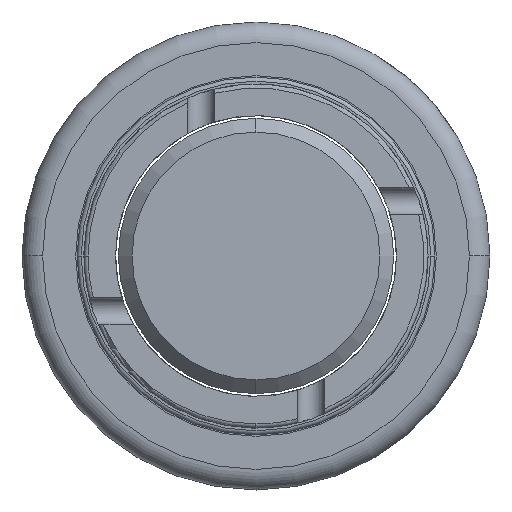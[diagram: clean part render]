
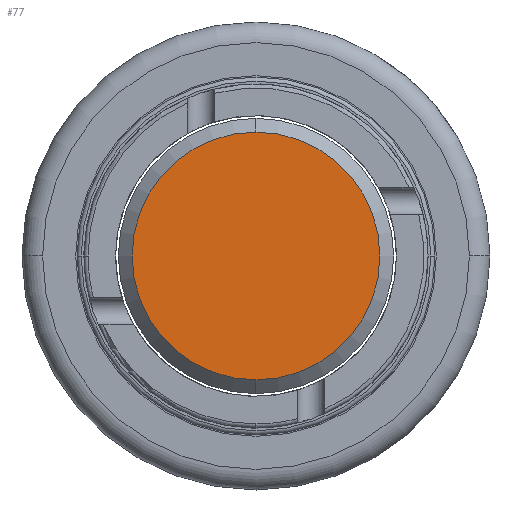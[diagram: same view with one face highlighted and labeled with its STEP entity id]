
A CAD part, left-side view. The second image highlights one B-rep face of the part: STEP entity #77.
In plain terms, the highlighted planar face has unit normal (-1, 0, 0).
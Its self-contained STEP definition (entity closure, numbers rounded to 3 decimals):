
#77 = ADVANCED_FACE ( 'NONE', ( #3024 ), #1928, .T. ) ;
#124 = CARTESIAN_POINT ( 'NONE',  ( -32.739, 2.958, 36. ) ) ;
#353 = CARTESIAN_POINT ( 'NONE',  ( -32.739, 2.958, 45. ) ) ;
#431 = AXIS2_PLACEMENT_3D ( 'NONE', #353, #871, #2047 ) ;
#525 = CARTESIAN_POINT ( 'NONE',  ( -32.739, 2.958, 45. ) ) ;
#871 = DIRECTION ( 'NONE',  ( -1., 0., 0. ) ) ;
#1095 = EDGE_CURVE ( 'NONE', #3342, #1766, #2277, .T. ) ;
#1418 = ORIENTED_EDGE ( 'NONE', *, *, #2900, .T. ) ;
#1511 = EDGE_LOOP ( 'NONE', ( #2890, #1418 ) ) ;
#1766 = VERTEX_POINT ( 'NONE', #2446 ) ;
#1928 = PLANE ( 'NONE',  #3126 ) ;
#2047 = DIRECTION ( 'NONE',  ( 0., 0., 1. ) ) ;
#2277 = CIRCLE ( 'NONE', #2641, 9. ) ;
#2446 = CARTESIAN_POINT ( 'NONE',  ( -32.739, 2.958, 54. ) ) ;
#2474 = CARTESIAN_POINT ( 'NONE',  ( -32.739, 2.958, 45. ) ) ;
#2545 = DIRECTION ( 'NONE',  ( -1., 0., 0. ) ) ;
#2641 = AXIS2_PLACEMENT_3D ( 'NONE', #2474, #3600, #3554 ) ;
#2890 = ORIENTED_EDGE ( 'NONE', *, *, #1095, .T. ) ;
#2900 = EDGE_CURVE ( 'NONE', #1766, #3342, #3210, .T. ) ;
#3024 = FACE_OUTER_BOUND ( 'NONE', #1511, .T. ) ;
#3092 = DIRECTION ( 'NONE',  ( 0., 0., 1. ) ) ;
#3126 = AXIS2_PLACEMENT_3D ( 'NONE', #525, #2545, #3092 ) ;
#3210 = CIRCLE ( 'NONE', #431, 9. ) ;
#3342 = VERTEX_POINT ( 'NONE', #124 ) ;
#3554 = DIRECTION ( 'NONE',  ( 0., 0., 1. ) ) ;
#3600 = DIRECTION ( 'NONE',  ( -1., 0., 0. ) ) ;
